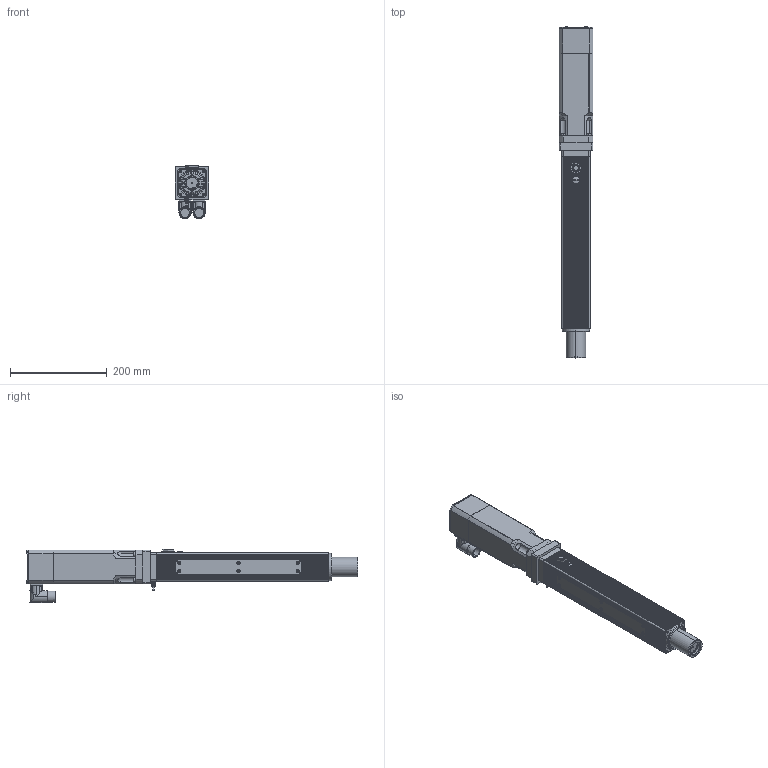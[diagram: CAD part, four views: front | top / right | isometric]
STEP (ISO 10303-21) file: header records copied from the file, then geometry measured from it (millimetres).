
FILE_DESCRIPTION (( 'STEP AP203' ), '1' );
FILE_NAME ('KM LN5I0030-020-020HG2.STEP', '2021-11-08T09:10:52', ( '' ), ( '' ), 'SwSTEP 2.0', 'SolidWorks 2021', '' );
FILE_SCHEMA (( 'CONFIG_CONTROL_DESIGN' ));
Length unit declared in the file: millimetre
Products named in the file (1): KM LN5I0030-020-020HG2
Bounding box: 70.1 x 686.37 x 111.6 mm (x, y, z)
Volume: 2209154.8 mm3; surface area: 446409.1 mm2
Topology: 53 solids, 54 shells, 5435 faces, 13662 edges, 8780 vertices
Faces by surface type: plane 3761, cylinder 1134, cone 419, torus 68, bspline 43, sphere 10
Entity records: 164238 total; most frequent: CARTESIAN_POINT 33334, ORIENTED_EDGE 27116, DIRECTION 26488, EDGE_CURVE 13558, LINE 10046, VECTOR 10046, VERTEX_POINT 8780, AXIS2_PLACEMENT_3D 8221
